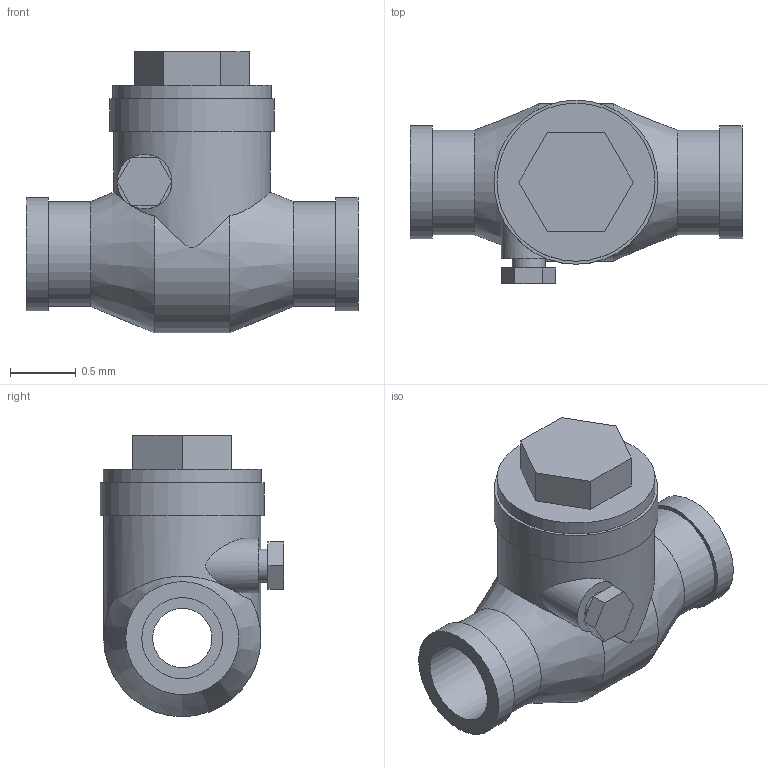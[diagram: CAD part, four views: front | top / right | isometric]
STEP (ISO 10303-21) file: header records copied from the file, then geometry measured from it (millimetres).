
FILE_DESCRIPTION(('Open CASCADE Model'),'2;1');
FILE_NAME('Open CASCADE Shape Model','2022-05-09T11:28:21',('Author'),( 'Open CASCADE'),'Open CASCADE STEP processor 7.3','Open CASCADE 7.3' ,'Unknown');
FILE_SCHEMA(('AUTOMOTIVE_DESIGN { 1 0 10303 214 1 1 1 1 }'));
Length unit declared in the file: millimetre
Products named in the file (1): Open CASCADE STEP translator 7.3 1
Bounding box: 2.52 x 1.39 x 2.14 mm (x, y, z)
Volume: 2.4 mm3; surface area: 17.8 mm2
Topology: 1 solids, 1 shells, 40 faces, 84 edges, 56 vertices
Faces by surface type: plane 25, cylinder 13, cone 2
Full cylindrical faces by diameter (mm): 0.25 x1, 0.415 x1, 0.45 x1, 0.615 x2, 0.795 x2, 0.858 x2, 1.19 x1, 1.2 x1, 1.245 x1
Entity records: 3241 total; most frequent: CARTESIAN_POINT 1504, DIRECTION 316, ORIENTED_EDGE 168, PCURVE 168, DEFINITIONAL_REPRESENTATION 168, LINE 168, VECTOR 168, EDGE_CURVE 84
